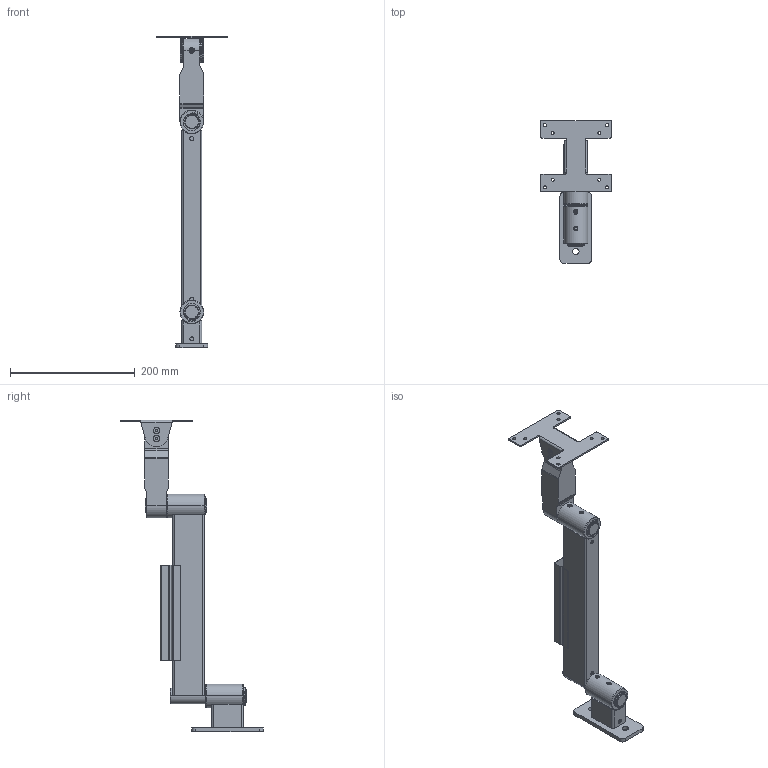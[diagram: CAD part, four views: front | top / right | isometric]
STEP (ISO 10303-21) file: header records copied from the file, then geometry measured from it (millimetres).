
FILE_DESCRIPTION (( 'STEP AP203' ), '1' );
FILE_NAME ('70-7600-00 REV AA, HD SINGLE MONITOR FOLDING ARM MOUNT - EXTENDED.STEP', '2025-07-10T22:42:09', ( '' ), ( '' ), 'SwSTEP 2.0', 'SolidWorks 2025', '' );
FILE_SCHEMA (( 'CONFIG_CONTROL_DESIGN' ));
Length unit declared in the file: inch
Products named in the file (23): 70-0048-RX REV AA, CONNECTOR PIN, 875OD x 3.9; 71-0090-RX REV AA, HOUSING, MOUNT; 71-2113-RX REV AA, HOUSING, BEARING, TALL, 1.5OD_MACHINE; 70-0048-00 REV AA, CONNECTOR PIN ASSEMBLY, .875OD x 3.9; 71-1012-RX REV AA, HOUSING, 12in RIGID_MACHINE; 016-012-00, OILITE PLUS BEARING, .876 IDx1.0 OD x 1.0; 70-1012-00 REV AA, 12in RIGID SECTION; 71-1061-RX REV AA, BODY, VESA, RAW_MACHINE; 41-0063-RX REV AA, PIN, TILT, VESA; 70-0060-00 REV AA, VESA ATTACHMENT_Vertical; 010-012-00, RETAINING RING, EXTERNAL, .875in SHAFT; 70-0272-00 REV AA, CABLE COVER, 12in RIGID, BLACK; 016-007-00, OILITE PLUS BEARING, 0.876 id x 1.002 od x 0.75 lg; 71-0218-RX REV AA, PLATE, MICRO HD, 4.5 x 2.0 x .25_Laser; 007-034-00, SHSS, .375-24, .25L_007-034-00; 70-0018-00 REV AA, MICRO HD WALL MOUNT; 016-008-00, OILITE PLUS BEARING, 0.876 id x 1.002 od x 1.25 lg; 11-0028-RX REV AA, PLASTIC DISC, VESA; 002-088-00, FHSCS 10-32 x .5L, BO_002-088-00; 71-0022-RX REV AA, PIN, RIGID SECTION; 007-036-00, SHSS, 1''4-28, .25L_007-036-00; 70-7600-00 REV AA, HD SINGLE MONITOR FOLDING ARM MOUNT - EXTENDED; 11-0062-BLKX REV AA, BRACKET, VESA, SHEETMETAL, BLACK
Assembly tree (34 placements, depth 3):
  70-7600-00 REV AA, HD SINGLE MONITOR FOLDING ARM MOUNT - EXTENDED
    70-0018-00 REV AA, MICRO HD WALL MOUNT
      71-0218-RX REV AA, PLATE, MICRO HD, 4.5 x 2.0 x .25_Laser
      71-0090-RX REV AA, HOUSING, MOUNT
      71-2113-RX REV AA, HOUSING, BEARING, TALL, 1.5OD_MACHINE
      016-007-00, OILITE PLUS BEARING, 0.876 id x 1.002 od x 0.75 lg
      016-008-00, OILITE PLUS BEARING, 0.876 id x 1.002 od x 1.25 lg
      007-036-00, SHSS, 1''4-28, .25L_007-036-00
    70-1012-00 REV AA, 12in RIGID SECTION
      71-1012-RX REV AA, HOUSING, 12in RIGID_MACHINE
      71-0022-RX REV AA, PIN, RIGID SECTION
      71-2113-RX REV AA, HOUSING, BEARING, TALL, 1.5OD_MACHINE
      016-007-00, OILITE PLUS BEARING, 0.876 id x 1.002 od x 0.75 lg
      016-008-00, OILITE PLUS BEARING, 0.876 id x 1.002 od x 1.25 lg
      007-036-00, SHSS, 1''4-28, .25L_007-036-00
      010-012-00, RETAINING RING, EXTERNAL, .875in SHAFT
    70-0060-00 REV AA, VESA ATTACHMENT_Vertical
      71-1061-RX REV AA, BODY, VESA, RAW_MACHINE
      016-008-00, OILITE PLUS BEARING, 0.876 id x 1.002 od x 1.25 lg
      016-012-00, OILITE PLUS BEARING, .876 IDx1.0 OD x 1.0
      007-034-00, SHSS, .375-24, .25L_007-034-00
      41-0063-RX REV AA, PIN, TILT, VESA
      11-0028-RX REV AA, PLASTIC DISC, VESA  x2
      11-0062-BLKX REV AA, BRACKET, VESA, SHEETMETAL, BLACK
      002-088-00, FHSCS 10-32 x .5L, BO_002-088-00  x4
      007-036-00, SHSS, 1''4-28, .25L_007-036-00
    70-0048-00 REV AA, CONNECTOR PIN ASSEMBLY, .875OD x 3.9
      70-0048-RX REV AA, CONNECTOR PIN, 875OD x 3.9
      010-012-00, RETAINING RING, EXTERNAL, .875in SHAFT  x2
    70-0272-00 REV AA, CABLE COVER, 12in RIGID, BLACK
Bounding box: 114.3 x 228.09 x 499.1 mm (x, y, z)
Volume: 534399.1 mm3; surface area: 276557.8 mm2
Topology: 30 solids, 30 shells, 1000 faces, 2452 edges, 1507 vertices
Faces by surface type: cylinder 472, plane 258, cone 172, torus 74, bspline 24
Entity records: 23695 total; most frequent: CARTESIAN_POINT 7715, DIRECTION 2858, ORIENTED_EDGE 2712, EDGE_CURVE 1356, AXIS2_PLACEMENT_3D 1123, VERTEX_POINT 834, EDGE_LOOP 644, LINE 612
